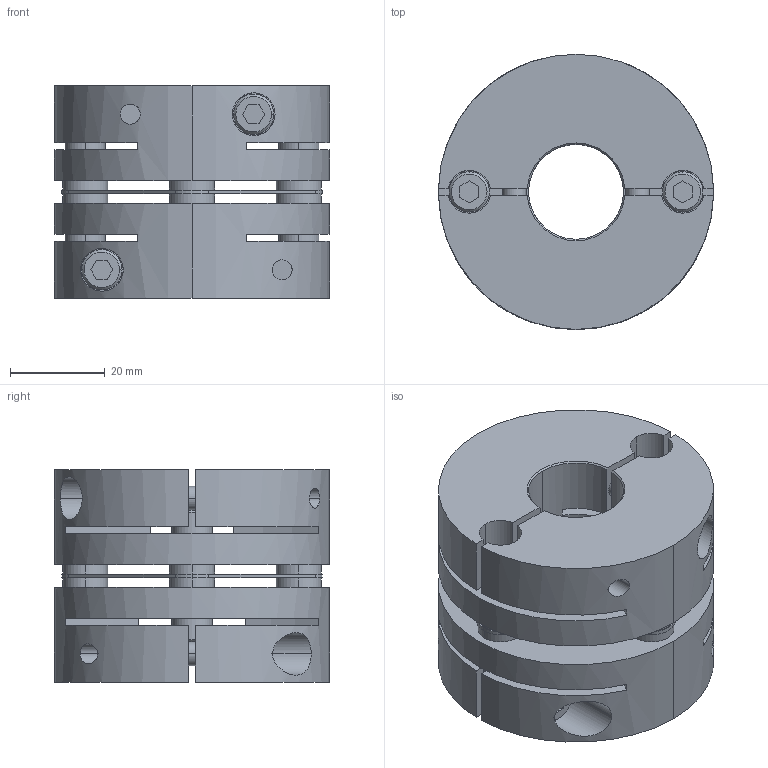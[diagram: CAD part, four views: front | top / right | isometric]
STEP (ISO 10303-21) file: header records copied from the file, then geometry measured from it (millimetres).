
FILE_DESCRIPTION((''),'2;1');
FILE_NAME('LAS-58C-20×25.stp','2015-10-15T14:56:38',(''),(''),'AutoCAD STEP 2000i','AutoCAD 2000i',', , ');
FILE_SCHEMA(('CONFIG_CONTROL_DESIGN'));
Length unit declared in the file: millimetre
Products named in the file (6): LAS-58C-12×19; 忣兜1; LA-5802-D19; LA-5802-D12-1; LA-5802-D12; LAS58-ITA
Assembly tree (5 placements, depth 2):
  LAS-58C-12×19
    忣兜1
    LA-5802-D19
    LA-5802-D12-1
    LA-5802-D12
    LAS58-ITA
Bounding box: 58 x 58 x 44.8 mm (x, y, z)
Volume: 80858.8 mm3; surface area: 32519 mm2
Topology: 1 solids, 1 shells, 238 faces, 618 edges, 404 vertices
Faces by surface type: plane 114, cylinder 96, cone 28
Entity records: 8213 total; most frequent: CARTESIAN_POINT 1988, DIRECTION 1316, ORIENTED_EDGE 1240, EDGE_CURVE 620, AXIS2_PLACEMENT_3D 484, VERTEX_POINT 404, VECTOR 348, LINE 348
